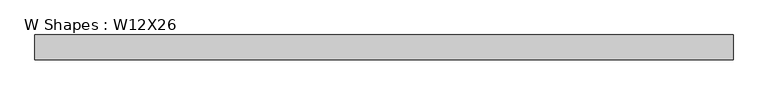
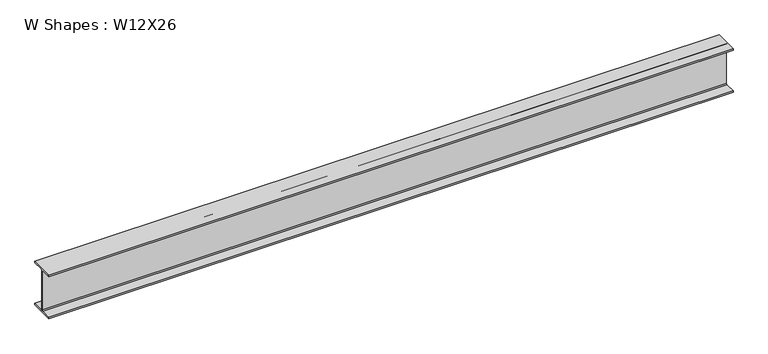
"""IFC4 building model written with IfcOpenShell, lengths in millimetres: beam geometry, W Shapes : W12X26."""

from ifc_helpers import new_model, si_unit, point, frame, frame_2d, origin, place, context, project, spatial, polyline, circle_curve, trimmed, segment, composite_curve, outline, extrude, source, transform, mapped, element, save


def w_shapes_w12x26_b3838ff3(model_context):
    return source(origin(), model_context, "Body", "SweptSolid", [
        extrude(outline(composite_curve([segment(polyline([(82.423, -145.288), (82.423, -154.94), (-82.423, -154.94), (-82.423, -145.288), (-10.541, -145.288)]), True, "CONTINUOUS"), segment(trimmed(circle_curve(frame_2d((-10.541, -137.668)), 7.62), [point((-10.541, -145.288))], [point((-2.921, -137.668))], True, "CARTESIAN"), True, "CONTINUOUS"), segment(polyline([(-2.921, -137.668), (-2.921, 137.668)]), True, "CONTINUOUS"), segment(trimmed(circle_curve(frame_2d((-10.541, 137.668)), 7.62), [point((-2.921, 137.668))], [point((-10.541, 145.288))], True, "CARTESIAN"), True, "CONTINUOUS"), segment(polyline([(-10.541, 145.288), (-82.423, 145.288), (-82.423, 154.94), (82.423, 154.94), (82.423, 145.288), (10.541, 145.288)]), True, "CONTINUOUS"), segment(trimmed(circle_curve(frame_2d((10.541, 137.668)), 7.62), [point((10.541, 145.288))], [point((2.921, 137.668))], True, "CARTESIAN"), True, "CONTINUOUS"), segment(polyline([(2.921, 137.668), (2.921, -137.668)]), True, "CONTINUOUS"), segment(trimmed(circle_curve(frame_2d((10.541, -137.668)), 7.62), [point((2.921, -137.668))], [point((10.541, -145.288))], True, "CARTESIAN"), True, "CONTINUOUS"), segment(polyline([(10.541, -145.288), (82.423, -145.288)]), True, "CONTINUOUS")], self_intersect=False)), frame((-2333.2582842, 0.0, 0.0), z_axis=(1.0, 0.0, 0.0), x_axis=(0.0, 1.0, 0.0)), (0.0, 0.0, 1.0), 4627.0069095),
    ])


if __name__ == "__main__":
    model = new_model("IFC4")
    model_context = context("Model", 3, world=origin())
    ifc_project = project(units=[si_unit("LENGTHUNIT", "METRE", prefix="MILLI")], contexts=[model_context])
    site = spatial("IfcSite", under=ifc_project)
    building = spatial("IfcBuilding", under=site)
    placement = place(None, origin())
    w_shapes_w12x26_shape = w_shapes_w12x26_b3838ff3(model_context)
    element("IfcBeam", 1, ObjectType="W Shapes : W12X26", at=placement, inside=building, context=model_context, shape_type="MappedRepresentation", body=[
        mapped(w_shapes_w12x26_shape, transform((0.0, 0.0, 0.0), x_axis=(1.0, 0.0, 0.0), y_axis=(0.0, 1.0, 0.0), z_axis=(0.0, 0.0, 1.0))),
    ])
    save(model, "model.ifc")
